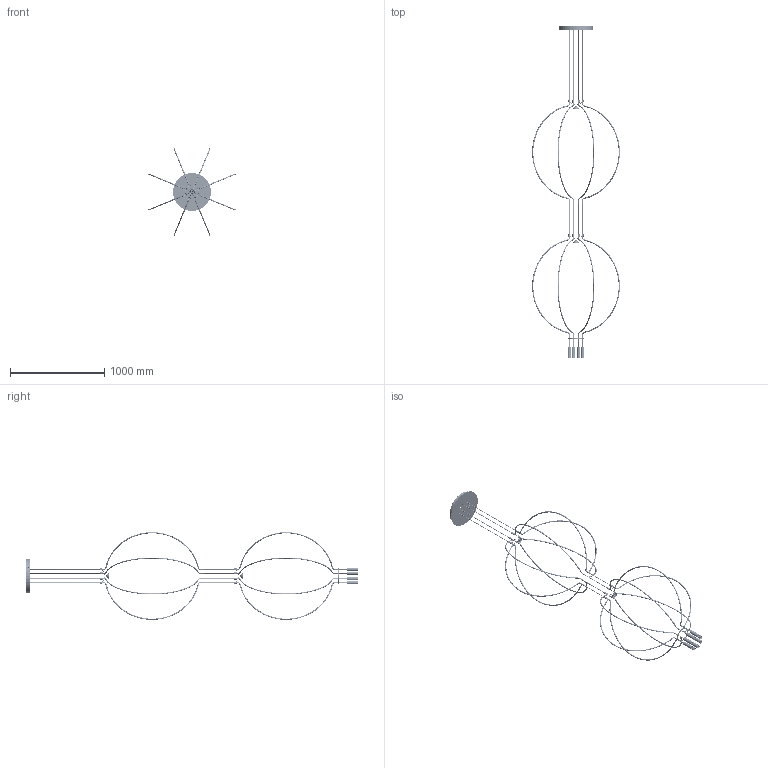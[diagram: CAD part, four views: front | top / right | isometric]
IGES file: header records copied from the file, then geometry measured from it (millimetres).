
Start section: SolidWorks IGES file using analytic representation for surfaces
Global section: file name: \\STORAGE\Tecnico Condiviso\1 FASCICOLI TECNICI\AXO DESIGN\AXO058-LIAISON\AXO01 Liaison - Fascicolo Tecnico 2018-11-20\AXO01.LS13 SO100 8 Luci D\SPLIADG8XXXXLED-PER 3D.IGS; native system: SolidWorks 2018; preprocessor: SolidWorks 2018; author: tecnico3; date: 190221.163522; units: millimetre
Bounding box: 929.36 x 3517.94 x 929.36 mm (x, y, z)
Surface area: 3453387.2 mm2 (no closed solid volume)
Topology: 0 solids, 0 shells, 10966 faces, 135420 edges, 135294 vertices
Faces by surface type: bspline 6609, revolution 4357
